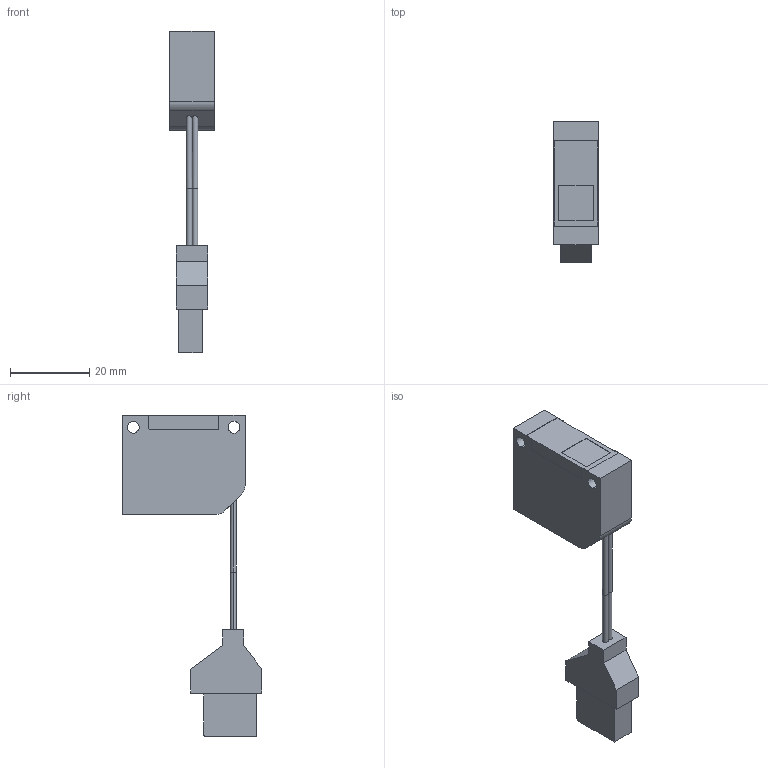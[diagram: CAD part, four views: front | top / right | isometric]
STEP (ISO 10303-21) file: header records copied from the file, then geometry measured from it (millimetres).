
FILE_DESCRIPTION (( 'STEP AP203' ), '1' );
FILE_NAME ('LS-H91.STEP', '2005-11-09T06:53:35', ( '' ), ( '' ), 'SwSTEP 2.0', 'SolidWorks 2004073', '' );
FILE_SCHEMA (( 'CONFIG_CONTROL_DESIGN' ));
Length unit declared in the file: millimetre
Products named in the file (1): LS-H91
Bounding box: 11.2 x 35.25 x 81 mm (x, y, z)
Volume: 9507.4 mm3; surface area: 6072.7 mm2
Topology: 3 solids, 3 shells, 118 faces, 311 edges, 206 vertices
Faces by surface type: plane 89, cylinder 29
Entity records: 3700 total; most frequent: CARTESIAN_POINT 654, ORIENTED_EDGE 622, DIRECTION 599, EDGE_CURVE 311, VECTOR 249, LINE 249, VERTEX_POINT 206, AXIS2_PLACEMENT_3D 175
